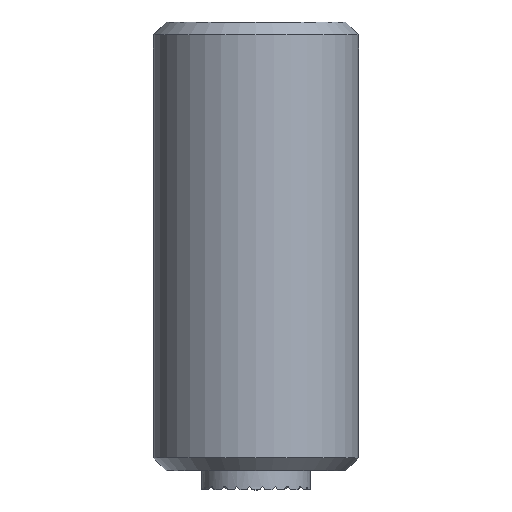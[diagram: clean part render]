
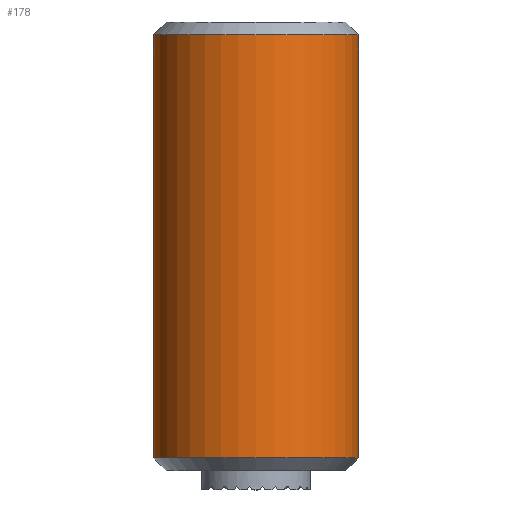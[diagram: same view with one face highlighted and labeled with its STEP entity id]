
A CAD part, top view. The second image highlights one B-rep face of the part: STEP entity #178.
In plain terms, the highlighted cylindrical face has radius 8 mm (diameter 16 mm), a full revolution.
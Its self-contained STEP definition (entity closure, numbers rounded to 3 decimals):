
#178 = ADVANCED_FACE( '', ( #521, #522 ), #523, .T. );
#521 = FACE_OUTER_BOUND( '', #1183, .T. );
#522 = FACE_OUTER_BOUND( '', #1184, .T. );
#523 = CYLINDRICAL_SURFACE( '', #1185, 8. );
#1183 = EDGE_LOOP( '', ( #1873 ) );
#1184 = EDGE_LOOP( '', ( #1874 ) );
#1185 = AXIS2_PLACEMENT_3D( '', #1875, #1876, #1877 );
#1873 = ORIENTED_EDGE( '', *, *, #4196, .F. );
#1874 = ORIENTED_EDGE( '', *, *, #4179, .T. );
#1875 = CARTESIAN_POINT( '', ( 0., 0., 0. ) );
#1876 = DIRECTION( '', ( 0., 1., 0. ) );
#1877 = DIRECTION( '', ( 0., 0., -1. ) );
#4179 = EDGE_CURVE( '', #4870, #4870, #4871, .T. );
#4196 = EDGE_CURVE( '', #4902, #4902, #4903, .T. );
#4870 = VERTEX_POINT( '', #5936 );
#4871 = CIRCLE( '', #5937, 8. );
#4902 = VERTEX_POINT( '', #5979 );
#4903 = CIRCLE( '', #5980, 8. );
#5936 = CARTESIAN_POINT( '', ( 0., 34., -8. ) );
#5937 = AXIS2_PLACEMENT_3D( '', #7596, #7597, #7598 );
#5979 = CARTESIAN_POINT( '', ( 0., 1., -8. ) );
#5980 = AXIS2_PLACEMENT_3D( '', #7625, #7626, #7627 );
#7596 = CARTESIAN_POINT( '', ( 0., 34., 0. ) );
#7597 = DIRECTION( '', ( 0., -1., 0. ) );
#7598 = DIRECTION( '', ( 0., 0., -1. ) );
#7625 = CARTESIAN_POINT( '', ( 0., 1., 0. ) );
#7626 = DIRECTION( '', ( 0., -1., 0. ) );
#7627 = DIRECTION( '', ( 0., 0., -1. ) );
